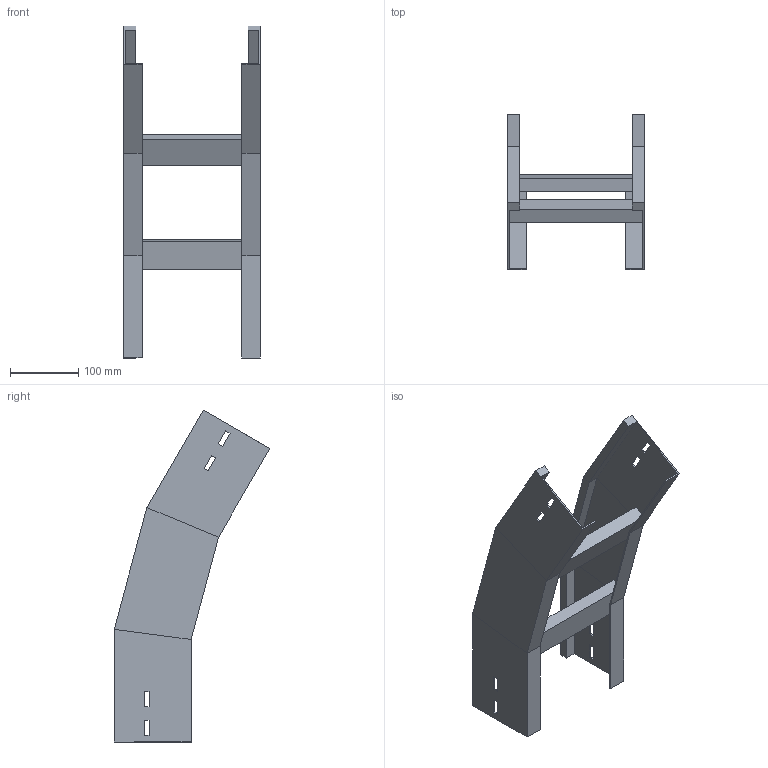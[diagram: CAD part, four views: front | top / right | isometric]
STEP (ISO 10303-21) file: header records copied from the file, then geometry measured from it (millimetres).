
FILE_DESCRIPTION (( 'STEP AP214' ), '1' );
FILE_NAME ('A2_35B3J200.step', '2025-02-21T14:47:50', ( '' ), ( '' ), 'SwSTEP 2.0', 'SolidWorks 2023', '' );
FILE_SCHEMA (( 'AUTOMOTIVE_DESIGN' ));
Length unit declared in the file: millimetre
Products named in the file (3): LONGH.DISCESA_30°_H112.5_R300; TRAVERSINO_200; A2_35B3J200
Assembly tree (5 placements, depth 2):
  A2_35B3J200
    LONGH.DISCESA_30°_H112.5_R300  x2
    TRAVERSINO_200  x3
Bounding box: 200 x 227.62 x 485.87 mm (x, y, z)
Volume: 933704.7 mm3; surface area: 376558.8 mm2
Topology: 5 solids, 5 shells, 102 faces, 244 edges, 152 vertices
Faces by surface type: plane 102
Entity records: 1480 total; most frequent: CARTESIAN_POINT 244, ORIENTED_EDGE 232, DIRECTION 228, EDGE_CURVE 116, LINE 116, VECTOR 116, VERTEX_POINT 72, EDGE_LOOP 56
